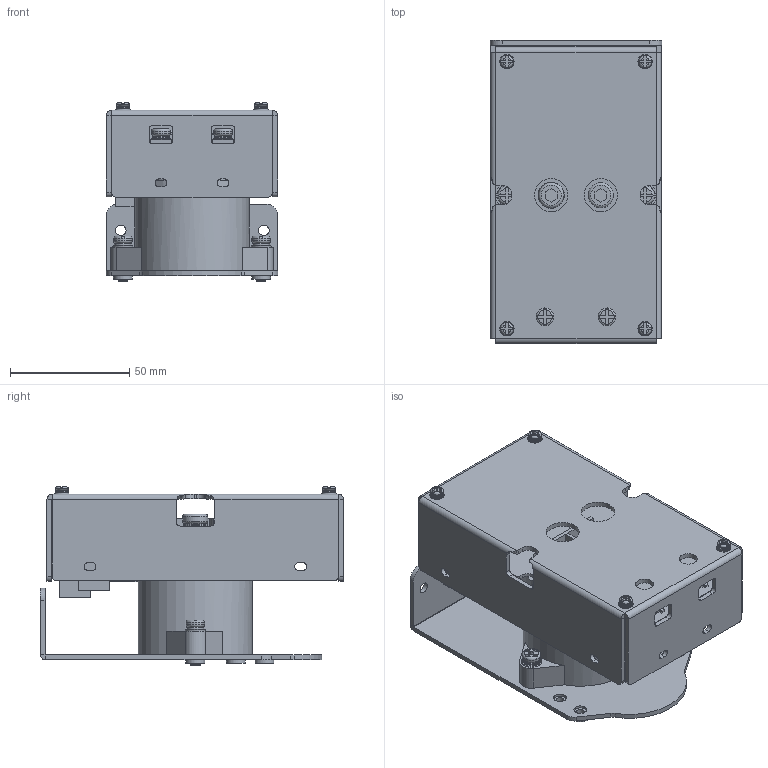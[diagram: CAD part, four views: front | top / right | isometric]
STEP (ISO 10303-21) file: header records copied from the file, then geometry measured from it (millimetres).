
FILE_DESCRIPTION(/* description */ (''),/* implementation_level */ '2;1');
FILE_NAME(/* name */ 'G:\019_LVD ICL\[ 신버전_2024_03 ]\[ 3D 파일 (STEP,IGES) ]\BLVD_2025.02.20.stp',/* time_stamp */ '2025-02-20T11:54:38+09:00',/* author */ ('jjang'),/* organization */ (''),/* preprocessor_version */ 'ST-DEVELOPER v18.1',/* originating_system */ 'Autodesk Inventor 2021',/* authorisation */ '');
FILE_SCHEMA (('CONFIG_CONTROL_DESIGN'));
Length unit declared in the file: inch
Products named in the file (1): ICL RELAY ASS'Y_Shrinkwrap_1
Bounding box: 72 x 127.2 x 75.01 mm (x, y, z)
Volume: 190969.3 mm3; surface area: 102896.4 mm2
Topology: 7 solids, 7 shells, 994 faces, 2633 edges, 1772 vertices
Faces by surface type: plane 577, cylinder 293, cone 56, torus 52, bspline 8, sphere 8
Full cylindrical faces by diameter (mm): 2.8 x4, 2.957 x8, 3 x5, 3.242 x4, 3.3 x4, 3.848 x1, 3.86 x1, 4 x12, 4.2 x2, 4.4 x2, 4.5 x2, 5.38 x4, 5.4 x4, 5.429 x4, 5.5 x2, 5.636 x4, 5.744 x2, 6.2 x2, 6.3 x3, 7 x1, 7.084 x4, 7.5 x2, 7.8 x4, 7.9 x6, 8 x1, 8.5 x1, 10.286 x1, 10.5 x2, 12 x3, 14 x2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
Entity records: 33386 total; most frequent: CARTESIAN_POINT 7416, DIRECTION 5427, ORIENTED_EDGE 5266, EDGE_CURVE 2633, AXIS2_PLACEMENT_3D 1983, VERTEX_POINT 1772, LINE 1461, VECTOR 1461
